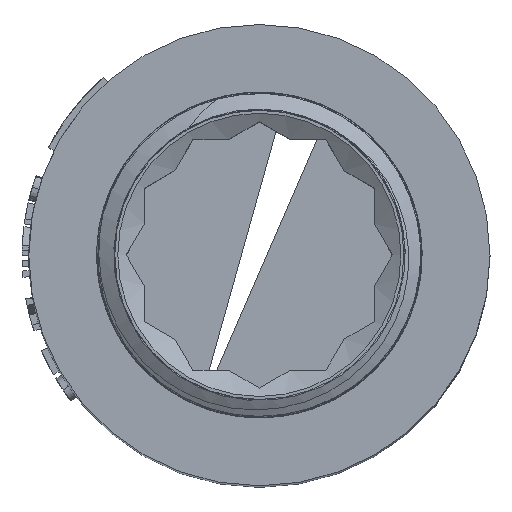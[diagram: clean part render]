
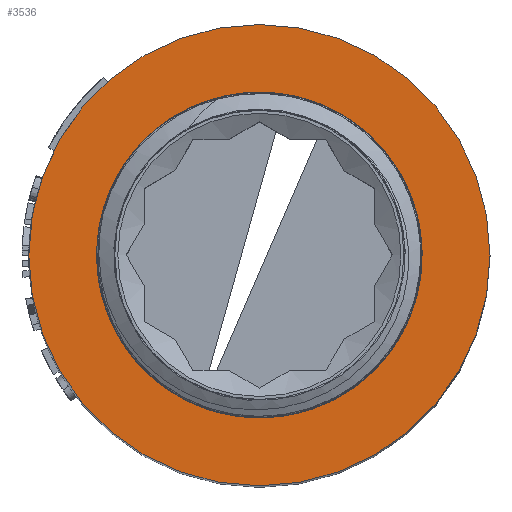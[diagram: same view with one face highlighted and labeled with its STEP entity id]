
A CAD part, top view. The second image highlights one B-rep face of the part: STEP entity #3536.
In plain terms, the highlighted planar face has unit normal (0, 0, 1).
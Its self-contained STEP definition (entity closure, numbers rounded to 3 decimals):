
#82=FACE_BOUND('',#806,.T.);
#438=PLANE('',#3781);
#592=FACE_OUTER_BOUND('',#805,.T.);
#805=EDGE_LOOP('',(#3018,#3019));
#806=EDGE_LOOP('',(#3020,#3021));
#1264=CIRCLE('',#3611,10.72);
#1267=CIRCLE('',#3614,10.72);
#1288=CIRCLE('',#3654,17.1);
#1289=CIRCLE('',#3655,17.1);
#1362=VERTEX_POINT('',#4507);
#1363=VERTEX_POINT('',#4508);
#1410=VERTEX_POINT('',#4755);
#1411=VERTEX_POINT('',#4756);
#1724=EDGE_CURVE('',#1362,#1363,#1264,.T.);
#1728=EDGE_CURVE('',#1363,#1362,#1267,.T.);
#1795=EDGE_CURVE('',#1410,#1411,#1288,.T.);
#1796=EDGE_CURVE('',#1411,#1410,#1289,.T.);
#3018=ORIENTED_EDGE('',*,*,#1795,.T.);
#3019=ORIENTED_EDGE('',*,*,#1796,.T.);
#3020=ORIENTED_EDGE('',*,*,#1724,.F.);
#3021=ORIENTED_EDGE('',*,*,#1728,.F.);
#3536=ADVANCED_FACE('',(#592,#82),#438,.T.);
#3611=AXIS2_PLACEMENT_3D('',#4509,#3845,#3846);
#3614=AXIS2_PLACEMENT_3D('',#4515,#3852,#3853);
#3654=AXIS2_PLACEMENT_3D('',#4757,#3968,#3969);
#3655=AXIS2_PLACEMENT_3D('',#4758,#3970,#3971);
#3781=AXIS2_PLACEMENT_3D('',#6932,#4356,#4357);
#3845=DIRECTION('center_axis',(0.,0.,1.));
#3846=DIRECTION('ref_axis',(1.,0.,0.));
#3852=DIRECTION('center_axis',(0.,0.,1.));
#3853=DIRECTION('ref_axis',(1.,0.,0.));
#3968=DIRECTION('center_axis',(0.,0.,1.));
#3969=DIRECTION('ref_axis',(1.,0.,0.));
#3970=DIRECTION('center_axis',(0.,0.,1.));
#3971=DIRECTION('ref_axis',(1.,0.,0.));
#4356=DIRECTION('center_axis',(0.,0.,1.));
#4357=DIRECTION('ref_axis',(1.,0.,0.));
#4507=CARTESIAN_POINT('',(0.,10.72,-12.));
#4508=CARTESIAN_POINT('',(0.,-10.72,-12.));
#4509=CARTESIAN_POINT('Origin',(0.,0.,-12.));
#4515=CARTESIAN_POINT('Origin',(0.,0.,-12.));
#4755=CARTESIAN_POINT('',(0.,-17.1,-12.));
#4756=CARTESIAN_POINT('',(0.,17.1,-12.));
#4757=CARTESIAN_POINT('Origin',(0.,0.,-12.));
#4758=CARTESIAN_POINT('Origin',(0.,0.,-12.));
#6932=CARTESIAN_POINT('Origin',(0.,-12.065,-12.));
